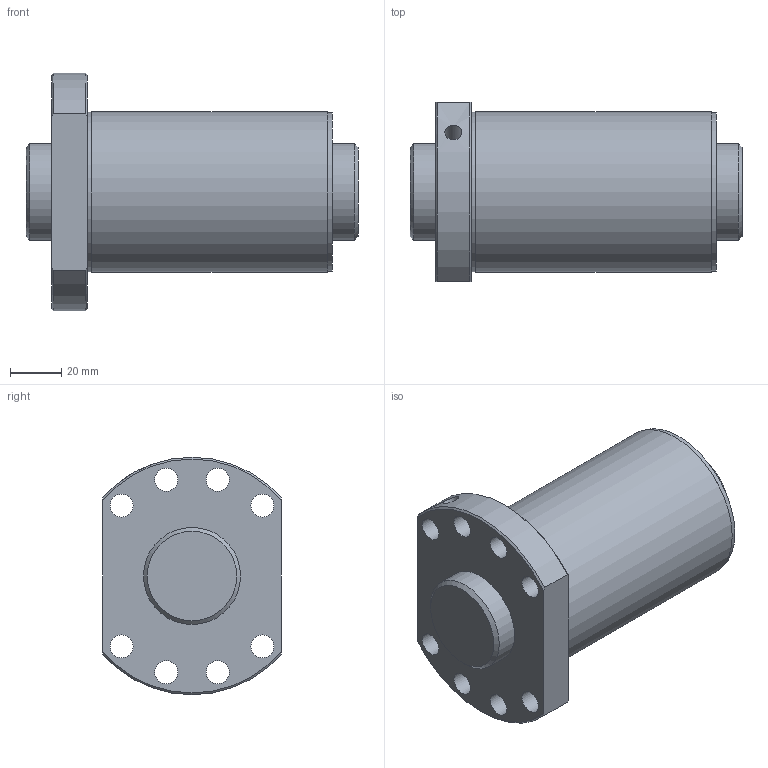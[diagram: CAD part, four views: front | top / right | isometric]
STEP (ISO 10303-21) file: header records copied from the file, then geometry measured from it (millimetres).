
FILE_DESCRIPTION(/* description */ ('STEP AP203'),/* implementation_level */ '2;1');
FILE_NAME(/* name */ 'SDA3820V-5G0+130LC0(0G000)',/* time_stamp */ '2024-05-28T11:33:55+02:00',/* author */ ('License CC BY-ND 4.0'),/* organization */ ('CADENAS'),/* preprocessor_version */ 'ST-DEVELOPER v19.3',/* originating_system */ 'PARTsolutions',/* authorisation */ ' ');
FILE_SCHEMA (('CONFIG_CONTROL_DESIGN'));
Length unit declared in the file: millimetre
Products named in the file (3): SDA3820V-5G0+130LC0(0G000); 000SDA3820V-50Shaft; SDA-V serieSDA3820V-5nut
Assembly tree (2 placements, depth 2):
  SDA3820V-5G0+130LC0(0G000)
    000SDA3820V-50Shaft
    SDA-V serieSDA3820V-5nut
Bounding box: 130 x 70 x 93 mm (x, y, z)
Volume: 394961.4 mm3; surface area: 65600.8 mm2
Topology: 2 solids, 2 shells, 33 faces, 75 edges, 49 vertices
Faces by surface type: cylinder 17, plane 9, cone 7
Full cylindrical faces by diameter (mm): 5.2 x1, 6.647 x1, 9 x8, 38 x2, 62 x1, 62.6 x1, 63 x1
Entity records: 983 total; most frequent: CARTESIAN_POINT 184, DIRECTION 156, ORIENTED_EDGE 112, EDGE_LOOP 74, FACE_BOUND 74, AXIS2_PLACEMENT_3D 74, EDGE_CURVE 56, VERTEX_POINT 48
